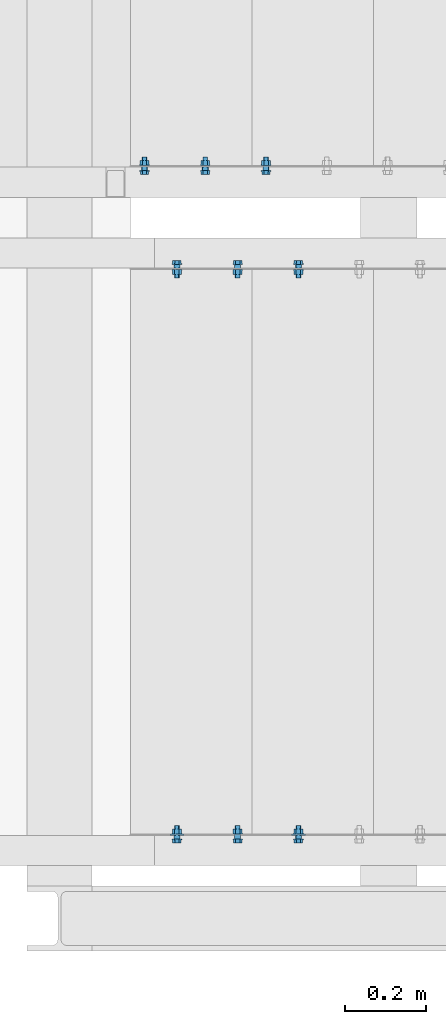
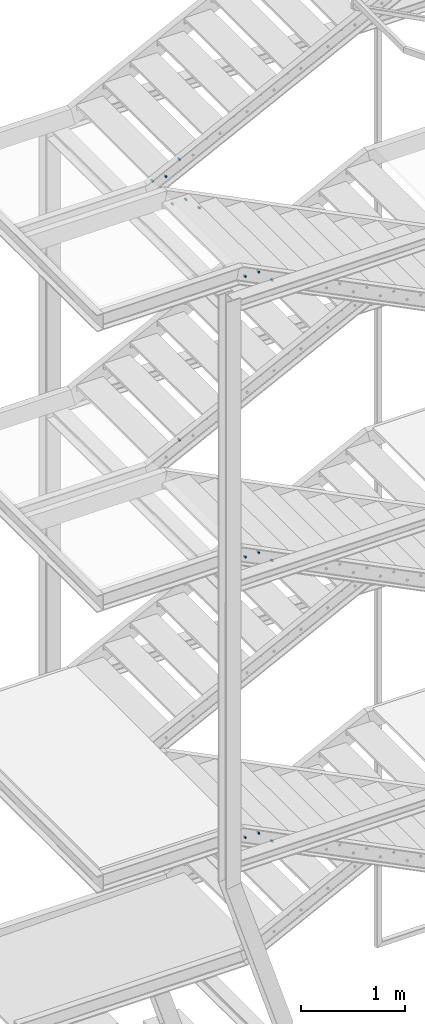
# One storey, part 98 of 132: 16 mechanical fasteners, 9 elements without a shape of their own.
"""IFC2X3 building model written with IfcOpenShell, lengths in millimetres."""

from ifc_helpers import new_model, si_unit, frame, frame_2d, origin_with_axes, origin_2d_with_axis, place, context, subcontext, project, spatial, polyline, circle_curve, parameter, trimmed, segment, composite_curve, circle, outline, extrude, source, transform, mapped, material, type_object, element, aggregate, save


model = new_model("IFC2X3")

# Units and contexts
model_context = context("Model", 3, precision=1e-05, world=origin_with_axes())
body_context = subcontext(model_context, "Body", "Model", "MODEL_VIEW")
ifc_project = project(units=[si_unit("LENGTHUNIT", "METRE", prefix="MILLI"), si_unit("AREAUNIT", "SQUARE_METRE"), si_unit("VOLUMEUNIT", "CUBIC_METRE"), si_unit("MASSUNIT", "GRAM", prefix="KILO"), si_unit("TIMEUNIT", "SECOND"), si_unit("PLANEANGLEUNIT", "RADIAN"), si_unit("SOLIDANGLEUNIT", "STERADIAN"), si_unit("THERMODYNAMICTEMPERATUREUNIT", "DEGREE_CELSIUS"), si_unit("LUMINOUSINTENSITYUNIT", "LUMEN")], contexts=[model_context])

# Site, building, storey
site_placement = place(None, origin_with_axes())
site = spatial("IfcSite", under=ifc_project, at=site_placement, Name="Budowa", CompositionType="ELEMENT")
building_placement = place(site_placement, origin_with_axes())
building = spatial("IfcBuilding", under=site, at=building_placement, Name="Undefined", CompositionType="ELEMENT")
storey_placement = place(building_placement, origin_with_axes())
storey = spatial("IfcBuildingStorey", under=building, at=storey_placement, Name="Undefined", CompositionType="ELEMENT", Elevation=0.0)

# Assembly, mechanical fastener
assembly_1_placement = place(storey_placement, origin_with_axes())
assembly_1 = element("IfcElementAssembly", 1, at=assembly_1_placement, inside=storey, Name="Steel Assembly", AssemblyPlace="NOTDEFINED", PredefinedType="RIGID_FRAME")
ifc_material = material(Name="Undefined")
discrete_accessory_type = type_object("IfcDiscreteAccessoryType", Name="Bolt assembly")
shared_shape_1 = source(origin_with_axes(), body_context, "Body", "SweptSolid", [
    extrude(circle(Radius=7.5, at=origin_2d_with_axis()), frame((0.0, -8.40000000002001, 0.0), z_axis=(0.0, 1.0, 0.0), x_axis=(1.0, 0.0, 0.0)), (0.0, 0.0, 1.0), 8.5),
    extrude(circle(Radius=7.5, at=origin_2d_with_axis()), frame((0.0, -0.1, 0.0), z_axis=(0.0, 1.0, 0.0), x_axis=(1.0, 0.0, 0.0)), (0.0, 0.0, 1.0), 3.1),
    extrude(outline(polyline([(10.39230484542, 0.0), (5.19615242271, 9.00000000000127), (-5.19615242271, 9.00000000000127), (-10.39230484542, 0.0), (-5.19615242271, -9.00000000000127), (5.19615242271, -9.00000000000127), (10.39230484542, 0.0)])), frame((0.0, -18.50000000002, 0.0), z_axis=(0.0, 1.0, 0.0), x_axis=(1.0, 0.0, 0.0)), (0.0, 0.0, 1.0), 7.5),
    extrude(circle(Radius=6.0, at=origin_2d_with_axis()), frame((0.0, -11.00000000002, 0.0), z_axis=(0.0, 1.0, 0.0), x_axis=(1.0, 0.0, 0.0)), (0.0, 0.0, 1.0), 35.0),
    extrude(circle(Radius=12.0, at=origin_2d_with_axis()), frame((0.0, -11.00000000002, 0.0), z_axis=(0.0, 1.0, 0.0), x_axis=(1.0, 0.0, 0.0)), (0.0, 0.0, 1.0), 2.5),
    extrude(circle(Radius=12.0, at=origin_2d_with_axis()), frame((0.0, 3.0, 0.0), z_axis=(0.0, 1.0, 0.0), x_axis=(1.0, 0.0, 0.0)), (0.0, 0.0, 1.0), 2.5),
    extrude(outline(polyline([(10.96965511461, 0.0), (5.484827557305, 9.50000000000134), (-5.484827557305, 9.50000000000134), (-10.96965511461, 0.0), (-5.484827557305, -9.50000000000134), (5.484827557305, -9.50000000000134), (10.96965511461, 0.0)])), frame((0.0, 5.5, 0.0), z_axis=(0.0, 1.0, 0.0), x_axis=(1.0, 0.0, 0.0)), (0.0, 0.0, 1.0), 10.0),
])
mechanical_fastener_1_placement = place(assembly_1_placement, frame((-3520.00000008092, 9525.0000000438, 12499.9999999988), z_axis=(0.0, 0.0, -1.0), x_axis=(-1.0, 0.0, 0.0)))
mechanical_fastener_1 = element("IfcMechanicalFastener", 2, at=mechanical_fastener_1_placement, type_object=discrete_accessory_type, material=ifc_material, Name="Bolt assembly", NominalDiameter=12.0, NominalLength=35.0, context=body_context, shape_type="MappedRepresentation", body=[
    mapped(shared_shape_1, transform((265.0, 0.0, 25.0))),
])
aggregate(assembly_1, [mechanical_fastener_1])

assembly_2_placement = place(storey_placement, origin_with_axes())
assembly_2 = element("IfcElementAssembly", 3, at=assembly_2_placement, inside=storey, Name="Steel Assembly", AssemblyPlace="NOTDEFINED", PredefinedType="RIGID_FRAME")
mechanical_fastener_2_placement = place(assembly_2_placement, frame((-3820.00000008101, 9525.0000000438, 12349.9999999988), z_axis=(0.0, 0.0, -1.0), x_axis=(-1.0, 0.0, 0.0)))
mechanical_fastener_2 = element("IfcMechanicalFastener", 4, at=mechanical_fastener_2_placement, type_object=discrete_accessory_type, material=ifc_material, Name="Bolt assembly", NominalDiameter=12.0, NominalLength=35.0, context=body_context, shape_type="MappedRepresentation", body=[
    mapped(shared_shape_1, transform((265.0, 0.0, 25.0))),
])

# Assembly, mechanical fasteners
assembly_3_placement = place(storey_placement, origin_with_axes())
assembly_3 = element("IfcElementAssembly", 5, at=assembly_3_placement, inside=storey, Name="Steel Assembly", AssemblyPlace="NOTDEFINED", PredefinedType="RIGID_FRAME")
mechanical_fastener_3_placement = place(assembly_3_placement, frame((-3820.00000007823, 7875.00000004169, 12200.0000000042), z_axis=(0.0, 0.0, -1.0), x_axis=(-1.0, 0.0, 0.0)))
mechanical_fastener_3 = element("IfcMechanicalFastener", 6, at=mechanical_fastener_3_placement, type_object=discrete_accessory_type, material=ifc_material, Name="Bolt assembly", NominalDiameter=12.0, NominalLength=35.0, context=body_context, shape_type="MappedRepresentation", body=[
    mapped(shared_shape_1, transform((35.0, 0.0, 25.0))),
])
mechanical_fastener_4_placement = place(assembly_3_placement, frame((-4120.00000007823, 9275.00000004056, 12200.0000000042), z_axis=(0.0, 0.0, -1.0), x_axis=(1.0, 0.0, 0.0)))
mechanical_fastener_4 = element("IfcMechanicalFastener", 7, at=mechanical_fastener_4_placement, type_object=discrete_accessory_type, material=ifc_material, Name="Bolt assembly", NominalDiameter=12.0, NominalLength=35.0, context=body_context, shape_type="MappedRepresentation", body=[
    mapped(shared_shape_1, transform((265.0, 0.0, 25.0))),
])

# Assembly, mechanical fastener
assembly_4_placement = place(storey_placement, origin_with_axes())
assembly_4 = element("IfcElementAssembly", 8, at=assembly_4_placement, inside=storey, Name="Steel Assembly", AssemblyPlace="NOTDEFINED", PredefinedType="RIGID_FRAME")
mechanical_fastener_5_placement = place(assembly_4_placement, frame((-3520.00000008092, 9525.0000000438, 9199.99999999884), z_axis=(0.0, 0.0, -1.0), x_axis=(-1.0, 0.0, 0.0)))
mechanical_fastener_5 = element("IfcMechanicalFastener", 9, at=mechanical_fastener_5_placement, type_object=discrete_accessory_type, material=ifc_material, Name="Bolt assembly", NominalDiameter=12.0, NominalLength=35.0, context=body_context, shape_type="MappedRepresentation", body=[
    mapped(shared_shape_1, transform((265.0, 0.0, 25.0))),
])
aggregate(assembly_4, [mechanical_fastener_5])

assembly_5_placement = place(storey_placement, origin_with_axes())
assembly_5 = element("IfcElementAssembly", 10, at=assembly_5_placement, inside=storey, Name="Steel Assembly", AssemblyPlace="NOTDEFINED", PredefinedType="RIGID_FRAME")
mechanical_fastener_6_placement = place(assembly_5_placement, frame((-3820.00000007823, 7875.00000004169, 8900.00000000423), z_axis=(0.0, 0.0, -1.0), x_axis=(-1.0, 0.0, 0.0)))
mechanical_fastener_6 = element("IfcMechanicalFastener", 11, at=mechanical_fastener_6_placement, type_object=discrete_accessory_type, material=ifc_material, Name="Bolt assembly", NominalDiameter=12.0, NominalLength=35.0, context=body_context, shape_type="MappedRepresentation", body=[
    mapped(shared_shape_1, transform((35.0, 0.0, 25.0))),
])

assembly_6_placement = place(storey_placement, origin_with_axes())
assembly_6 = element("IfcElementAssembly", 12, at=assembly_6_placement, inside=storey, Name="Steel Assembly", AssemblyPlace="NOTDEFINED", PredefinedType="RIGID_FRAME")
mechanical_fastener_7_placement = place(assembly_6_placement, frame((-3820.00000007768, 7875.00000004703, 5599.99999999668), z_axis=(0.0, 0.0, -1.0), x_axis=(-1.0, 0.0, 0.0)))
mechanical_fastener_7 = element("IfcMechanicalFastener", 13, at=mechanical_fastener_7_placement, type_object=discrete_accessory_type, material=ifc_material, Name="Bolt assembly", NominalDiameter=12.0, NominalLength=35.0, context=body_context, shape_type="MappedRepresentation", body=[
    mapped(shared_shape_1, transform((35.0, 0.0, 25.0))),
])

# Mechanical fastener
shared_shape_2 = source(origin_with_axes(), body_context, "Body", "SweptSolid", [
    extrude(circle(Radius=7.5, at=origin_2d_with_axis()), frame((0.0, -8.40000000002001, 0.0), z_axis=(0.0, 1.0, 0.0), x_axis=(1.0, 0.0, 0.0)), (0.0, 0.0, 1.0), 8.5),
    extrude(outline(composite_curve([segment(polyline([(-10.0, 7.5), (10.0, 7.5)]), True, "CONTINUOUS"), segment(trimmed(circle_curve(frame_2d((10.0, 0.0), x_axis=(0.0, 1.0)), 7.5), [parameter(0.0)], [parameter(3.14159265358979)], False, "PARAMETER"), True, "CONTINUOUS"), segment(polyline([(10.0, -7.5), (-10.0, -7.5)]), True, "CONTINUOUS"), segment(trimmed(circle_curve(frame_2d((-10.0, 0.0), x_axis=(0.0, -1.0)), 7.5), [parameter(0.0)], [parameter(3.14159265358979)], False, "PARAMETER"), True, "DISCONTINUOUS")], self_intersect=False)), frame((0.0, -0.1, 0.0), z_axis=(0.0, 1.0, 0.0), x_axis=(1.0, 0.0, 0.0)), (0.0, 0.0, 1.0), 3.1),
    extrude(outline(polyline([(10.39230484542, 0.0), (5.19615242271, 9.00000000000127), (-5.19615242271, 9.00000000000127), (-10.39230484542, 0.0), (-5.19615242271, -9.00000000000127), (5.19615242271, -9.00000000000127), (10.39230484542, 0.0)])), frame((0.0, -18.50000000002, 0.0), z_axis=(0.0, 1.0, 0.0), x_axis=(1.0, 0.0, 0.0)), (0.0, 0.0, 1.0), 7.5),
    extrude(circle(Radius=6.0, at=origin_2d_with_axis()), frame((0.0, -11.00000000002, 0.0), z_axis=(0.0, 1.0, 0.0), x_axis=(1.0, 0.0, 0.0)), (0.0, 0.0, 1.0), 35.0),
    extrude(circle(Radius=12.0, at=origin_2d_with_axis()), frame((0.0, -11.00000000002, 0.0), z_axis=(0.0, 1.0, 0.0), x_axis=(1.0, 0.0, 0.0)), (0.0, 0.0, 1.0), 2.5),
    extrude(circle(Radius=12.0, at=origin_2d_with_axis()), frame((0.0, 3.0, 0.0), z_axis=(0.0, 1.0, 0.0), x_axis=(1.0, 0.0, 0.0)), (0.0, 0.0, 1.0), 2.5),
    extrude(outline(polyline([(10.96965511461, 0.0), (5.484827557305, 9.50000000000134), (-5.484827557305, 9.50000000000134), (-10.96965511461, 0.0), (-5.484827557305, -9.50000000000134), (5.484827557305, -9.50000000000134), (10.96965511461, 0.0)])), frame((0.0, 5.5, 0.0), z_axis=(0.0, 1.0, 0.0), x_axis=(1.0, 0.0, 0.0)), (0.0, 0.0, 1.0), 10.0),
])
mechanical_fastener_8_placement = place(assembly_2_placement, frame((-3820.00000008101, 9525.0000000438, 12349.9999999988), z_axis=(0.0, 0.0, -1.0), x_axis=(-1.0, 0.0, 0.0)))
mechanical_fastener_8 = element("IfcMechanicalFastener", 14, at=mechanical_fastener_8_placement, type_object=discrete_accessory_type, material=ifc_material, Name="Bolt assembly", NominalDiameter=12.0, NominalLength=35.0, context=body_context, shape_type="MappedRepresentation", body=[
    mapped(shared_shape_2, transform((115.0, 0.0, 25.0))),
])

aggregate(assembly_2, [mechanical_fastener_8, mechanical_fastener_2])

shared_shape_3 = source(origin_with_axes(), body_context, "Body", "SweptSolid", [
    extrude(circle(Radius=7.5, at=origin_2d_with_axis()), frame((0.0, -8.40000000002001, 0.0), z_axis=(0.0, 1.0, 0.0), x_axis=(1.0, 0.0, 0.0)), (0.0, 0.0, 1.0), 8.5),
    extrude(outline(composite_curve([segment(polyline([(-10.0, 7.5), (10.0, 7.5)]), True, "CONTINUOUS"), segment(trimmed(circle_curve(frame_2d((10.0, 0.0), x_axis=(0.0, 1.0)), 7.5), [parameter(0.0)], [parameter(3.14159265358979)], False, "PARAMETER"), True, "CONTINUOUS"), segment(polyline([(10.0, -7.5), (-10.0, -7.5)]), True, "CONTINUOUS"), segment(trimmed(circle_curve(frame_2d((-10.0, 0.0), x_axis=(0.0, -1.0)), 7.5), [parameter(0.0)], [parameter(3.14159265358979)], False, "PARAMETER"), True, "DISCONTINUOUS")], self_intersect=False)), frame((0.0, -0.1, 0.0), z_axis=(0.0, 1.0, 0.0), x_axis=(1.0, 0.0, 0.0)), (0.0, 0.0, 1.0), 3.1),
    extrude(outline(polyline([(10.39230484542, 0.0), (5.19615242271, 9.00000000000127), (-5.19615242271, 9.00000000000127), (-10.39230484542, 0.0), (-5.19615242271, -9.00000000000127), (5.19615242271, -9.00000000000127), (10.39230484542, 0.0)])), frame((0.0, -18.50000000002, 0.0), z_axis=(0.0, 1.0, 0.0), x_axis=(1.0, 0.0, 0.0)), (0.0, 0.0, 1.0), 7.5),
    extrude(circle(Radius=6.0, at=origin_2d_with_axis()), frame((0.0, -11.00000000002, 0.0), z_axis=(0.0, 1.0, 0.0), x_axis=(1.0, 0.0, 0.0)), (0.0, 0.0, 1.0), 35.0),
    extrude(circle(Radius=12.0, at=origin_2d_with_axis()), frame((0.0, -11.00000000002, 0.0), z_axis=(0.0, 1.0, 0.0), x_axis=(1.0, 0.0, 0.0)), (0.0, 0.0, 1.0), 2.5),
    extrude(circle(Radius=12.0, at=origin_2d_with_axis()), frame((0.0, 3.0, 0.0), z_axis=(0.0, 1.0, 0.0), x_axis=(1.0, 0.0, 0.0)), (0.0, 0.0, 1.0), 2.5),
    extrude(outline(polyline([(10.96965511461, 0.0), (5.484827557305, 9.50000000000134), (-5.484827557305, 9.50000000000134), (-10.96965511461, 0.0), (-5.484827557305, -9.50000000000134), (5.484827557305, -9.50000000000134), (10.96965511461, 0.0)])), frame((0.0, 5.5, 0.0), z_axis=(0.0, 1.0, 0.0), x_axis=(1.0, 0.0, 0.0)), (0.0, 0.0, 1.0), 10.0),
])
mechanical_fastener_9_placement = place(assembly_3_placement, frame((-3820.00000007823, 7875.00000004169, 12200.0000000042), z_axis=(0.0, 0.0, -1.0), x_axis=(-1.0, 0.0, 0.0)))
mechanical_fastener_9 = element("IfcMechanicalFastener", 15, at=mechanical_fastener_9_placement, type_object=discrete_accessory_type, material=ifc_material, Name="Bolt assembly", NominalDiameter=12.0, NominalLength=35.0, context=body_context, shape_type="MappedRepresentation", body=[
    mapped(shared_shape_3, transform((185.0, 0.0, 25.0))),
])

shared_shape_4 = source(origin_with_axes(), body_context, "Body", "SweptSolid", [
    extrude(circle(Radius=7.5, at=origin_2d_with_axis()), frame((0.0, -8.40000000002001, 0.0), z_axis=(0.0, 1.0, 0.0), x_axis=(1.0, 0.0, 0.0)), (0.0, 0.0, 1.0), 8.5),
    extrude(outline(composite_curve([segment(polyline([(-10.0, 7.5), (10.0, 7.5)]), True, "CONTINUOUS"), segment(trimmed(circle_curve(frame_2d((10.0, 0.0), x_axis=(0.0, 1.0)), 7.5), [parameter(0.0)], [parameter(3.14159265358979)], False, "PARAMETER"), True, "CONTINUOUS"), segment(polyline([(10.0, -7.5), (-10.0, -7.5)]), True, "CONTINUOUS"), segment(trimmed(circle_curve(frame_2d((-10.0, 0.0), x_axis=(0.0, -1.0)), 7.5), [parameter(0.0)], [parameter(3.14159265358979)], False, "PARAMETER"), True, "DISCONTINUOUS")], self_intersect=False)), frame((0.0, -0.1, 0.0), z_axis=(0.0, 1.0, 0.0), x_axis=(1.0, 0.0, 0.0)), (0.0, 0.0, 1.0), 3.1),
    extrude(outline(polyline([(10.39230484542, 0.0), (5.19615242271, 9.00000000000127), (-5.19615242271, 9.00000000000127), (-10.39230484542, 0.0), (-5.19615242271, -9.00000000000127), (5.19615242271, -9.00000000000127), (10.39230484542, 0.0)])), frame((0.0, -18.50000000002, 0.0), z_axis=(0.0, 1.0, 0.0), x_axis=(1.0, 0.0, 0.0)), (0.0, 0.0, 1.0), 7.5),
    extrude(circle(Radius=6.0, at=origin_2d_with_axis()), frame((0.0, -11.00000000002, 0.0), z_axis=(0.0, 1.0, 0.0), x_axis=(1.0, 0.0, 0.0)), (0.0, 0.0, 1.0), 35.0),
    extrude(circle(Radius=12.0, at=origin_2d_with_axis()), frame((0.0, -11.00000000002, 0.0), z_axis=(0.0, 1.0, 0.0), x_axis=(1.0, 0.0, 0.0)), (0.0, 0.0, 1.0), 2.5),
    extrude(circle(Radius=12.0, at=origin_2d_with_axis()), frame((0.0, 3.0, 0.0), z_axis=(0.0, 1.0, 0.0), x_axis=(1.0, 0.0, 0.0)), (0.0, 0.0, 1.0), 2.5),
    extrude(outline(polyline([(10.96965511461, 0.0), (5.484827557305, 9.50000000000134), (-5.484827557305, 9.50000000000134), (-10.96965511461, 0.0), (-5.484827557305, -9.50000000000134), (5.484827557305, -9.50000000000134), (10.96965511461, 0.0)])), frame((0.0, 5.5, 0.0), z_axis=(0.0, 1.0, 0.0), x_axis=(1.0, 0.0, 0.0)), (0.0, 0.0, 1.0), 10.0),
])
mechanical_fastener_10_placement = place(assembly_3_placement, frame((-4120.00000007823, 9275.00000004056, 12200.0000000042), z_axis=(0.0, 0.0, -1.0), x_axis=(1.0, 0.0, 0.0)))
mechanical_fastener_10 = element("IfcMechanicalFastener", 16, at=mechanical_fastener_10_placement, type_object=discrete_accessory_type, material=ifc_material, Name="Bolt assembly", NominalDiameter=12.0, NominalLength=35.0, context=body_context, shape_type="MappedRepresentation", body=[
    mapped(shared_shape_4, transform((115.0, 0.0, 25.0))),
])

aggregate(assembly_3, [mechanical_fastener_9, mechanical_fastener_3, mechanical_fastener_10, mechanical_fastener_4])

# Assembly, mechanical fasteners
assembly_7_placement = place(storey_placement, origin_with_axes())
assembly_7 = element("IfcElementAssembly", 17, at=assembly_7_placement, inside=storey, Name="Steel Assembly", AssemblyPlace="NOTDEFINED", PredefinedType="RIGID_FRAME")
shared_shape_5 = source(origin_with_axes(), body_context, "Body", "SweptSolid", [
    extrude(circle(Radius=7.5, at=origin_2d_with_axis()), frame((0.0, -8.40000000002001, 0.0), z_axis=(0.0, 1.0, 0.0), x_axis=(1.0, 0.0, 0.0)), (0.0, 0.0, 1.0), 8.5),
    extrude(outline(composite_curve([segment(polyline([(-10.0, 7.5), (10.0, 7.5)]), True, "CONTINUOUS"), segment(trimmed(circle_curve(frame_2d((10.0, 0.0), x_axis=(0.0, 1.0)), 7.5), [parameter(0.0)], [parameter(3.14159265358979)], False, "PARAMETER"), True, "CONTINUOUS"), segment(polyline([(10.0, -7.5), (-10.0, -7.5)]), True, "CONTINUOUS"), segment(trimmed(circle_curve(frame_2d((-10.0, 0.0), x_axis=(0.0, -1.0)), 7.5), [parameter(0.0)], [parameter(3.14159265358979)], False, "PARAMETER"), True, "DISCONTINUOUS")], self_intersect=False)), frame((0.0, -0.1, 0.0), z_axis=(0.0, 1.0, 0.0), x_axis=(1.0, 0.0, 0.0)), (0.0, 0.0, 1.0), 3.1),
    extrude(outline(polyline([(10.39230484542, 0.0), (5.19615242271, 9.00000000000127), (-5.19615242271, 9.00000000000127), (-10.39230484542, 0.0), (-5.19615242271, -9.00000000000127), (5.19615242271, -9.00000000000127), (10.39230484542, 0.0)])), frame((0.0, -18.50000000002, 0.0), z_axis=(0.0, 1.0, 0.0), x_axis=(1.0, 0.0, 0.0)), (0.0, 0.0, 1.0), 7.5),
    extrude(circle(Radius=6.0, at=origin_2d_with_axis()), frame((0.0, -11.00000000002, 0.0), z_axis=(0.0, 1.0, 0.0), x_axis=(1.0, 0.0, 0.0)), (0.0, 0.0, 1.0), 35.0),
    extrude(circle(Radius=12.0, at=origin_2d_with_axis()), frame((0.0, -11.00000000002, 0.0), z_axis=(0.0, 1.0, 0.0), x_axis=(1.0, 0.0, 0.0)), (0.0, 0.0, 1.0), 2.5),
    extrude(circle(Radius=12.0, at=origin_2d_with_axis()), frame((0.0, 3.0, 0.0), z_axis=(0.0, 1.0, 0.0), x_axis=(1.0, 0.0, 0.0)), (0.0, 0.0, 1.0), 2.5),
    extrude(outline(polyline([(10.96965511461, 0.0), (5.484827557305, 9.50000000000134), (-5.484827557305, 9.50000000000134), (-10.96965511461, 0.0), (-5.484827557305, -9.50000000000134), (5.484827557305, -9.50000000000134), (10.96965511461, 0.0)])), frame((0.0, 5.5, 0.0), z_axis=(0.0, 1.0, 0.0), x_axis=(1.0, 0.0, 0.0)), (0.0, 0.0, 1.0), 10.0),
])
mechanical_fastener_11_placement = place(assembly_7_placement, frame((-3520.00000007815, 7875.00000004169, 12050.0000000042), z_axis=(0.0, 0.0, -1.0), x_axis=(-1.0, 0.0, 0.0)))
mechanical_fastener_11 = element("IfcMechanicalFastener", 18, at=mechanical_fastener_11_placement, type_object=discrete_accessory_type, material=ifc_material, Name="Bolt assembly", NominalDiameter=12.0, NominalLength=35.0, context=body_context, shape_type="MappedRepresentation", body=[
    mapped(shared_shape_5, transform((185.0, 0.0, 25.0))),
])
shared_shape_6 = source(origin_with_axes(), body_context, "Body", "SweptSolid", [
    extrude(circle(Radius=7.5, at=origin_2d_with_axis()), frame((0.0, -8.40000000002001, 0.0), z_axis=(0.0, 1.0, 0.0), x_axis=(1.0, 0.0, 0.0)), (0.0, 0.0, 1.0), 8.5),
    extrude(outline(composite_curve([segment(polyline([(-10.0, 7.5), (10.0, 7.5)]), True, "CONTINUOUS"), segment(trimmed(circle_curve(frame_2d((10.0, 0.0), x_axis=(0.0, 1.0)), 7.5), [parameter(0.0)], [parameter(3.14159265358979)], False, "PARAMETER"), True, "CONTINUOUS"), segment(polyline([(10.0, -7.5), (-10.0, -7.5)]), True, "CONTINUOUS"), segment(trimmed(circle_curve(frame_2d((-10.0, 0.0), x_axis=(0.0, -1.0)), 7.5), [parameter(0.0)], [parameter(3.14159265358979)], False, "PARAMETER"), True, "DISCONTINUOUS")], self_intersect=False)), frame((0.0, -0.1, 0.0), z_axis=(0.0, 1.0, 0.0), x_axis=(1.0, 0.0, 0.0)), (0.0, 0.0, 1.0), 3.1),
    extrude(outline(polyline([(10.39230484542, 0.0), (5.19615242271, 9.00000000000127), (-5.19615242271, 9.00000000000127), (-10.39230484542, 0.0), (-5.19615242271, -9.00000000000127), (5.19615242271, -9.00000000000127), (10.39230484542, 0.0)])), frame((0.0, -18.50000000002, 0.0), z_axis=(0.0, 1.0, 0.0), x_axis=(1.0, 0.0, 0.0)), (0.0, 0.0, 1.0), 7.5),
    extrude(circle(Radius=6.0, at=origin_2d_with_axis()), frame((0.0, -11.00000000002, 0.0), z_axis=(0.0, 1.0, 0.0), x_axis=(1.0, 0.0, 0.0)), (0.0, 0.0, 1.0), 35.0),
    extrude(circle(Radius=12.0, at=origin_2d_with_axis()), frame((0.0, -11.00000000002, 0.0), z_axis=(0.0, 1.0, 0.0), x_axis=(1.0, 0.0, 0.0)), (0.0, 0.0, 1.0), 2.5),
    extrude(circle(Radius=12.0, at=origin_2d_with_axis()), frame((0.0, 3.0, 0.0), z_axis=(0.0, 1.0, 0.0), x_axis=(1.0, 0.0, 0.0)), (0.0, 0.0, 1.0), 2.5),
    extrude(outline(polyline([(10.96965511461, 0.0), (5.484827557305, 9.50000000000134), (-5.484827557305, 9.50000000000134), (-10.96965511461, 0.0), (-5.484827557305, -9.50000000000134), (5.484827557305, -9.50000000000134), (10.96965511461, 0.0)])), frame((0.0, 5.5, 0.0), z_axis=(0.0, 1.0, 0.0), x_axis=(1.0, 0.0, 0.0)), (0.0, 0.0, 1.0), 10.0),
])
mechanical_fastener_12_placement = place(assembly_7_placement, frame((-3820.00000007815, 9275.00000004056, 12050.0000000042), z_axis=(0.0, 0.0, -1.0), x_axis=(1.0, 0.0, 0.0)))
mechanical_fastener_12 = element("IfcMechanicalFastener", 19, at=mechanical_fastener_12_placement, type_object=discrete_accessory_type, material=ifc_material, Name="Bolt assembly", NominalDiameter=12.0, NominalLength=35.0, context=body_context, shape_type="MappedRepresentation", body=[
    mapped(shared_shape_6, transform((115.0, 0.0, 25.0))),
])
aggregate(assembly_7, [mechanical_fastener_11, mechanical_fastener_12])

# Mechanical fastener
shared_shape_7 = source(origin_with_axes(), body_context, "Body", "SweptSolid", [
    extrude(circle(Radius=7.5, at=origin_2d_with_axis()), frame((0.0, -8.40000000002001, 0.0), z_axis=(0.0, 1.0, 0.0), x_axis=(1.0, 0.0, 0.0)), (0.0, 0.0, 1.0), 8.5),
    extrude(outline(composite_curve([segment(polyline([(-10.0, 7.5), (10.0, 7.5)]), True, "CONTINUOUS"), segment(trimmed(circle_curve(frame_2d((10.0, 0.0), x_axis=(0.0, 1.0)), 7.5), [parameter(0.0)], [parameter(3.14159265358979)], False, "PARAMETER"), True, "CONTINUOUS"), segment(polyline([(10.0, -7.5), (-10.0, -7.5)]), True, "CONTINUOUS"), segment(trimmed(circle_curve(frame_2d((-10.0, 0.0), x_axis=(0.0, -1.0)), 7.5), [parameter(0.0)], [parameter(3.14159265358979)], False, "PARAMETER"), True, "DISCONTINUOUS")], self_intersect=False)), frame((0.0, -0.1, 0.0), z_axis=(0.0, 1.0, 0.0), x_axis=(1.0, 0.0, 0.0)), (0.0, 0.0, 1.0), 3.1),
    extrude(outline(polyline([(10.39230484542, 0.0), (5.19615242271, 9.00000000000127), (-5.19615242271, 9.00000000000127), (-10.39230484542, 0.0), (-5.19615242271, -9.00000000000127), (5.19615242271, -9.00000000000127), (10.39230484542, 0.0)])), frame((0.0, -18.50000000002, 0.0), z_axis=(0.0, 1.0, 0.0), x_axis=(1.0, 0.0, 0.0)), (0.0, 0.0, 1.0), 7.5),
    extrude(circle(Radius=6.0, at=origin_2d_with_axis()), frame((0.0, -11.00000000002, 0.0), z_axis=(0.0, 1.0, 0.0), x_axis=(1.0, 0.0, 0.0)), (0.0, 0.0, 1.0), 35.0),
    extrude(circle(Radius=12.0, at=origin_2d_with_axis()), frame((0.0, -11.00000000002, 0.0), z_axis=(0.0, 1.0, 0.0), x_axis=(1.0, 0.0, 0.0)), (0.0, 0.0, 1.0), 2.5),
    extrude(circle(Radius=12.0, at=origin_2d_with_axis()), frame((0.0, 3.0, 0.0), z_axis=(0.0, 1.0, 0.0), x_axis=(1.0, 0.0, 0.0)), (0.0, 0.0, 1.0), 2.5),
    extrude(outline(polyline([(10.96965511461, 0.0), (5.484827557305, 9.50000000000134), (-5.484827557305, 9.50000000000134), (-10.96965511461, 0.0), (-5.484827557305, -9.50000000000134), (5.484827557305, -9.50000000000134), (10.96965511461, 0.0)])), frame((0.0, 5.5, 0.0), z_axis=(0.0, 1.0, 0.0), x_axis=(1.0, 0.0, 0.0)), (0.0, 0.0, 1.0), 10.0),
])
mechanical_fastener_13_placement = place(assembly_5_placement, frame((-3820.00000007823, 7875.00000004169, 8900.00000000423), z_axis=(0.0, 0.0, -1.0), x_axis=(-1.0, 0.0, 0.0)))
mechanical_fastener_13 = element("IfcMechanicalFastener", 20, at=mechanical_fastener_13_placement, type_object=discrete_accessory_type, material=ifc_material, Name="Bolt assembly", NominalDiameter=12.0, NominalLength=35.0, context=body_context, shape_type="MappedRepresentation", body=[
    mapped(shared_shape_7, transform((185.0, 0.0, 25.0))),
])

aggregate(assembly_5, [mechanical_fastener_13, mechanical_fastener_6])

# Assembly, mechanical fastener
assembly_8_placement = place(storey_placement, origin_with_axes())
assembly_8 = element("IfcElementAssembly", 21, at=assembly_8_placement, inside=storey, Name="Steel Assembly", AssemblyPlace="NOTDEFINED", PredefinedType="RIGID_FRAME")
shared_shape_8 = source(origin_with_axes(), body_context, "Body", "SweptSolid", [
    extrude(circle(Radius=7.5, at=origin_2d_with_axis()), frame((0.0, -8.40000000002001, 0.0), z_axis=(0.0, 1.0, 0.0), x_axis=(1.0, 0.0, 0.0)), (0.0, 0.0, 1.0), 8.5),
    extrude(outline(composite_curve([segment(polyline([(-10.0, 7.5), (10.0, 7.5)]), True, "CONTINUOUS"), segment(trimmed(circle_curve(frame_2d((10.0, 0.0), x_axis=(0.0, 1.0)), 7.5), [parameter(0.0)], [parameter(3.14159265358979)], False, "PARAMETER"), True, "CONTINUOUS"), segment(polyline([(10.0, -7.5), (-10.0, -7.5)]), True, "CONTINUOUS"), segment(trimmed(circle_curve(frame_2d((-10.0, 0.0), x_axis=(0.0, -1.0)), 7.5), [parameter(0.0)], [parameter(3.14159265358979)], False, "PARAMETER"), True, "DISCONTINUOUS")], self_intersect=False)), frame((0.0, -0.1, 0.0), z_axis=(0.0, 1.0, 0.0), x_axis=(1.0, 0.0, 0.0)), (0.0, 0.0, 1.0), 3.1),
    extrude(outline(polyline([(10.39230484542, 0.0), (5.19615242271, 9.00000000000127), (-5.19615242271, 9.00000000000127), (-10.39230484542, 0.0), (-5.19615242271, -9.00000000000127), (5.19615242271, -9.00000000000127), (10.39230484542, 0.0)])), frame((0.0, -18.50000000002, 0.0), z_axis=(0.0, 1.0, 0.0), x_axis=(1.0, 0.0, 0.0)), (0.0, 0.0, 1.0), 7.5),
    extrude(circle(Radius=6.0, at=origin_2d_with_axis()), frame((0.0, -11.00000000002, 0.0), z_axis=(0.0, 1.0, 0.0), x_axis=(1.0, 0.0, 0.0)), (0.0, 0.0, 1.0), 35.0),
    extrude(circle(Radius=12.0, at=origin_2d_with_axis()), frame((0.0, -11.00000000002, 0.0), z_axis=(0.0, 1.0, 0.0), x_axis=(1.0, 0.0, 0.0)), (0.0, 0.0, 1.0), 2.5),
    extrude(circle(Radius=12.0, at=origin_2d_with_axis()), frame((0.0, 3.0, 0.0), z_axis=(0.0, 1.0, 0.0), x_axis=(1.0, 0.0, 0.0)), (0.0, 0.0, 1.0), 2.5),
    extrude(outline(polyline([(10.96965511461, 0.0), (5.484827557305, 9.50000000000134), (-5.484827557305, 9.50000000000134), (-10.96965511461, 0.0), (-5.484827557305, -9.50000000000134), (5.484827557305, -9.50000000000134), (10.96965511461, 0.0)])), frame((0.0, 5.5, 0.0), z_axis=(0.0, 1.0, 0.0), x_axis=(1.0, 0.0, 0.0)), (0.0, 0.0, 1.0), 10.0),
])
mechanical_fastener_14_placement = place(assembly_8_placement, frame((-3520.00000007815, 7875.00000004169, 8750.00000000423), z_axis=(0.0, 0.0, -1.0), x_axis=(-1.0, 0.0, 0.0)))
mechanical_fastener_14 = element("IfcMechanicalFastener", 22, at=mechanical_fastener_14_placement, type_object=discrete_accessory_type, material=ifc_material, Name="Bolt assembly", NominalDiameter=12.0, NominalLength=35.0, context=body_context, shape_type="MappedRepresentation", body=[
    mapped(shared_shape_8, transform((185.0, 0.0, 25.0))),
])
aggregate(assembly_8, [mechanical_fastener_14])

# Mechanical fastener
shared_shape_9 = source(origin_with_axes(), body_context, "Body", "SweptSolid", [
    extrude(circle(Radius=7.5, at=origin_2d_with_axis()), frame((0.0, -8.40000000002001, 0.0), z_axis=(0.0, 1.0, 0.0), x_axis=(1.0, 0.0, 0.0)), (0.0, 0.0, 1.0), 8.5),
    extrude(outline(composite_curve([segment(polyline([(-10.0, 7.5), (10.0, 7.5)]), True, "CONTINUOUS"), segment(trimmed(circle_curve(frame_2d((10.0, 0.0), x_axis=(0.0, 1.0)), 7.5), [parameter(0.0)], [parameter(3.14159265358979)], False, "PARAMETER"), True, "CONTINUOUS"), segment(polyline([(10.0, -7.5), (-10.0, -7.5)]), True, "CONTINUOUS"), segment(trimmed(circle_curve(frame_2d((-10.0, 0.0), x_axis=(0.0, -1.0)), 7.5), [parameter(0.0)], [parameter(3.14159265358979)], False, "PARAMETER"), True, "DISCONTINUOUS")], self_intersect=False)), frame((0.0, -0.1, 0.0), z_axis=(0.0, 1.0, 0.0), x_axis=(1.0, 0.0, 0.0)), (0.0, 0.0, 1.0), 3.1),
    extrude(outline(polyline([(10.39230484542, 0.0), (5.19615242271, 9.00000000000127), (-5.19615242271, 9.00000000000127), (-10.39230484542, 0.0), (-5.19615242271, -9.00000000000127), (5.19615242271, -9.00000000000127), (10.39230484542, 0.0)])), frame((0.0, -18.50000000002, 0.0), z_axis=(0.0, 1.0, 0.0), x_axis=(1.0, 0.0, 0.0)), (0.0, 0.0, 1.0), 7.5),
    extrude(circle(Radius=6.0, at=origin_2d_with_axis()), frame((0.0, -11.00000000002, 0.0), z_axis=(0.0, 1.0, 0.0), x_axis=(1.0, 0.0, 0.0)), (0.0, 0.0, 1.0), 35.0),
    extrude(circle(Radius=12.0, at=origin_2d_with_axis()), frame((0.0, -11.00000000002, 0.0), z_axis=(0.0, 1.0, 0.0), x_axis=(1.0, 0.0, 0.0)), (0.0, 0.0, 1.0), 2.5),
    extrude(circle(Radius=12.0, at=origin_2d_with_axis()), frame((0.0, 3.0, 0.0), z_axis=(0.0, 1.0, 0.0), x_axis=(1.0, 0.0, 0.0)), (0.0, 0.0, 1.0), 2.5),
    extrude(outline(polyline([(10.96965511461, 0.0), (5.484827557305, 9.50000000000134), (-5.484827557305, 9.50000000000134), (-10.96965511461, 0.0), (-5.484827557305, -9.50000000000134), (5.484827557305, -9.50000000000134), (10.96965511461, 0.0)])), frame((0.0, 5.5, 0.0), z_axis=(0.0, 1.0, 0.0), x_axis=(1.0, 0.0, 0.0)), (0.0, 0.0, 1.0), 10.0),
])
mechanical_fastener_15_placement = place(assembly_6_placement, frame((-3820.00000007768, 7875.00000004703, 5599.99999999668), z_axis=(0.0, 0.0, -1.0), x_axis=(-1.0, 0.0, 0.0)))
mechanical_fastener_15 = element("IfcMechanicalFastener", 23, at=mechanical_fastener_15_placement, type_object=discrete_accessory_type, material=ifc_material, Name="Bolt assembly", NominalDiameter=12.0, NominalLength=35.0, context=body_context, shape_type="MappedRepresentation", body=[
    mapped(shared_shape_9, transform((185.0, 0.0, 25.0))),
])

aggregate(assembly_6, [mechanical_fastener_15, mechanical_fastener_7])

# Assembly, mechanical fastener
assembly_9_placement = place(storey_placement, origin_with_axes())
assembly_9 = element("IfcElementAssembly", 24, at=assembly_9_placement, inside=storey, Name="Steel Assembly", AssemblyPlace="NOTDEFINED", PredefinedType="RIGID_FRAME")
shared_shape_10 = source(origin_with_axes(), body_context, "Body", "SweptSolid", [
    extrude(circle(Radius=7.5, at=origin_2d_with_axis()), frame((0.0, -8.40000000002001, 0.0), z_axis=(0.0, 1.0, 0.0), x_axis=(1.0, 0.0, 0.0)), (0.0, 0.0, 1.0), 8.5),
    extrude(outline(composite_curve([segment(polyline([(-10.0, 7.5), (10.0, 7.5)]), True, "CONTINUOUS"), segment(trimmed(circle_curve(frame_2d((10.0, 0.0), x_axis=(0.0, 1.0)), 7.5), [parameter(0.0)], [parameter(3.14159265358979)], False, "PARAMETER"), True, "CONTINUOUS"), segment(polyline([(10.0, -7.5), (-10.0, -7.5)]), True, "CONTINUOUS"), segment(trimmed(circle_curve(frame_2d((-10.0, 0.0), x_axis=(0.0, -1.0)), 7.5), [parameter(0.0)], [parameter(3.14159265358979)], False, "PARAMETER"), True, "DISCONTINUOUS")], self_intersect=False)), frame((0.0, -0.1, 0.0), z_axis=(0.0, 1.0, 0.0), x_axis=(1.0, 0.0, 0.0)), (0.0, 0.0, 1.0), 3.1),
    extrude(outline(polyline([(10.39230484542, 0.0), (5.19615242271, 9.00000000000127), (-5.19615242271, 9.00000000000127), (-10.39230484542, 0.0), (-5.19615242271, -9.00000000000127), (5.19615242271, -9.00000000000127), (10.39230484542, 0.0)])), frame((0.0, -18.50000000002, 0.0), z_axis=(0.0, 1.0, 0.0), x_axis=(1.0, 0.0, 0.0)), (0.0, 0.0, 1.0), 7.5),
    extrude(circle(Radius=6.0, at=origin_2d_with_axis()), frame((0.0, -11.00000000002, 0.0), z_axis=(0.0, 1.0, 0.0), x_axis=(1.0, 0.0, 0.0)), (0.0, 0.0, 1.0), 35.0),
    extrude(circle(Radius=12.0, at=origin_2d_with_axis()), frame((0.0, -11.00000000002, 0.0), z_axis=(0.0, 1.0, 0.0), x_axis=(1.0, 0.0, 0.0)), (0.0, 0.0, 1.0), 2.5),
    extrude(circle(Radius=12.0, at=origin_2d_with_axis()), frame((0.0, 3.0, 0.0), z_axis=(0.0, 1.0, 0.0), x_axis=(1.0, 0.0, 0.0)), (0.0, 0.0, 1.0), 2.5),
    extrude(outline(polyline([(10.96965511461, 0.0), (5.484827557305, 9.50000000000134), (-5.484827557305, 9.50000000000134), (-10.96965511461, 0.0), (-5.484827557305, -9.50000000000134), (5.484827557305, -9.50000000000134), (10.96965511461, 0.0)])), frame((0.0, 5.5, 0.0), z_axis=(0.0, 1.0, 0.0), x_axis=(1.0, 0.0, 0.0)), (0.0, 0.0, 1.0), 10.0),
])
mechanical_fastener_16_placement = place(assembly_9_placement, frame((-3520.00000007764, 7875.00000004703, 5449.99999999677), z_axis=(0.0, 0.0, -1.0), x_axis=(-1.0, 0.0, 0.0)))
mechanical_fastener_16 = element("IfcMechanicalFastener", 25, at=mechanical_fastener_16_placement, type_object=discrete_accessory_type, material=ifc_material, Name="Bolt assembly", NominalDiameter=12.0, NominalLength=35.0, context=body_context, shape_type="MappedRepresentation", body=[
    mapped(shared_shape_10, transform((185.0, 0.0, 25.0))),
])
aggregate(assembly_9, [mechanical_fastener_16])

save(model, "model.ifc")
